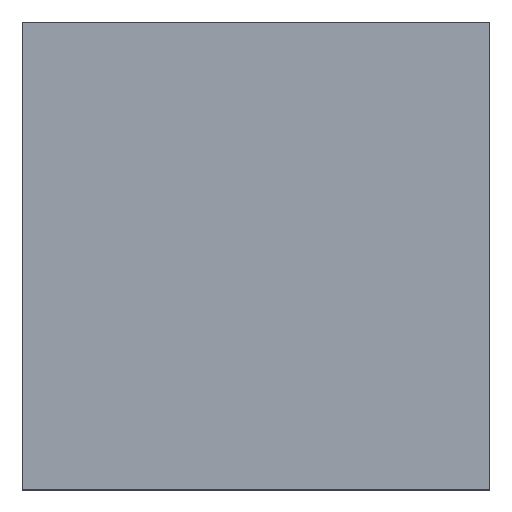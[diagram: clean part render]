
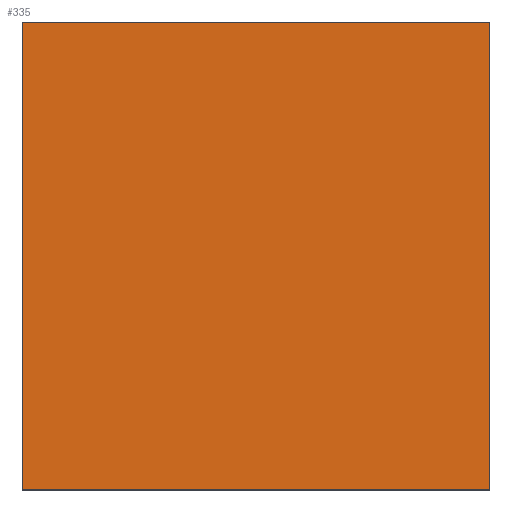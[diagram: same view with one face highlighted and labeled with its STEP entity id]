
A CAD part, top view. The second image highlights one B-rep face of the part: STEP entity #335.
In plain terms, the highlighted planar face has unit normal (0, 0, 1).
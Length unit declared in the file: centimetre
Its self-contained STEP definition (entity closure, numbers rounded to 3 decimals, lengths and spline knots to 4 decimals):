
#23 = CARTESIAN_POINT ( 'NONE',  ( 1000., 1000., 1000. ) ) ;
#26 = EDGE_CURVE ( 'NONE', #493, #473, #122, .T. ) ;
#29 = ORIENTED_EDGE ( 'NONE', *, *, #26, .T. ) ;
#48 = DIRECTION ( 'NONE',  ( 1., 0., 0. ) ) ;
#49 = ORIENTED_EDGE ( 'NONE', *, *, #501, .T. ) ;
#52 = EDGE_LOOP ( 'NONE', ( #49, #200, #398, #29 ) ) ;
#67 = PLANE ( 'NONE',  #500 ) ;
#97 = CARTESIAN_POINT ( 'NONE',  ( 0., 1000., 1000. ) ) ;
#122 = LINE ( 'NONE', #97, #186 ) ;
#138 = EDGE_CURVE ( 'NONE', #347, #493, #407, .T. ) ;
#169 = VECTOR ( 'NONE', #255, 100. ) ;
#181 = CARTESIAN_POINT ( 'NONE',  ( 0., 0., 1000. ) ) ;
#186 = VECTOR ( 'NONE', #271, 100. ) ;
#188 = VECTOR ( 'NONE', #48, 100. ) ;
#195 = CARTESIAN_POINT ( 'NONE',  ( 1000., 0., 1000. ) ) ;
#200 = ORIENTED_EDGE ( 'NONE', *, *, #389, .T. ) ;
#217 = VECTOR ( 'NONE', #325, 100. ) ;
#228 = CARTESIAN_POINT ( 'NONE',  ( 1000., 1000., 1000. ) ) ;
#255 = DIRECTION ( 'NONE',  ( 0., -1., 0. ) ) ;
#271 = DIRECTION ( 'NONE',  ( -1., 0., 0. ) ) ;
#279 = CARTESIAN_POINT ( 'NONE',  ( 0., 1000., 1000. ) ) ;
#325 = DIRECTION ( 'NONE',  ( 0., 1., 0. ) ) ;
#335 = ADVANCED_FACE ( 'NONE', ( #460 ), #67, .T. ) ;
#338 = DIRECTION ( 'NONE',  ( 1., 0., 0. ) ) ;
#346 = CARTESIAN_POINT ( 'NONE',  ( 0., 1000., 1000. ) ) ;
#347 = VERTEX_POINT ( 'NONE', #195 ) ;
#358 = LINE ( 'NONE', #279, #169 ) ;
#382 = CARTESIAN_POINT ( 'NONE',  ( 0., 0., 1000. ) ) ;
#389 = EDGE_CURVE ( 'NONE', #454, #347, #434, .T. ) ;
#398 = ORIENTED_EDGE ( 'NONE', *, *, #138, .T. ) ;
#407 = LINE ( 'NONE', #23, #217 ) ;
#434 = LINE ( 'NONE', #477, #188 ) ;
#454 = VERTEX_POINT ( 'NONE', #382 ) ;
#460 = FACE_OUTER_BOUND ( 'NONE', #52, .T. ) ;
#461 = DIRECTION ( 'NONE',  ( 0., 0., 1. ) ) ;
#473 = VERTEX_POINT ( 'NONE', #346 ) ;
#477 = CARTESIAN_POINT ( 'NONE',  ( 0., 0., 1000. ) ) ;
#493 = VERTEX_POINT ( 'NONE', #228 ) ;
#500 = AXIS2_PLACEMENT_3D ( 'NONE', #181, #461, #338 ) ;
#501 = EDGE_CURVE ( 'NONE', #473, #454, #358, .T. ) ;
